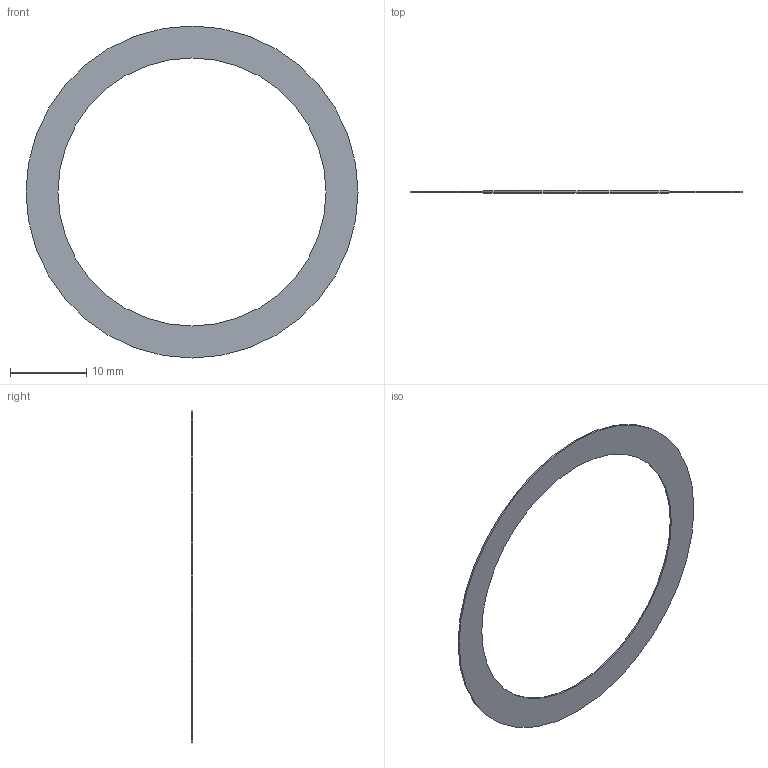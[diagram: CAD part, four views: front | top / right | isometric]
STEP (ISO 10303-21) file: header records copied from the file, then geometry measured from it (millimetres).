
FILE_DESCRIPTION(('Open CASCADE Model'),'2;1');
FILE_NAME('Open CASCADE Shape Model','2026-10-01T12:35:22',('Author'),( 'Open CASCADE'),'Open CASCADE STEP processor 7.8','Open CASCADE 7.8' ,'Unknown');
FILE_SCHEMA(('AUTOMOTIVE_DESIGN { 1 0 10303 214 1 1 1 1 }'));
Length unit declared in the file: millimetre
Products named in the file (2): H01_Bezel_adhesive; H01_Bezel_adhesive_solid
Assembly tree (1 placements, depth 2):
  H01_Bezel_adhesive
    H01_Bezel_adhesive_solid
Bounding box: 43.6 x 0.2 x 43.6 mm (x, y, z)
Volume: 104 mm3; surface area: 1089.3 mm2
Topology: 1 solids, 1 shells, 4 faces, 6 edges, 4 vertices
Faces by surface type: cylinder 2, plane 2
Full cylindrical faces by diameter (mm): 35.2 x1, 43.6 x1
Entity records: 213 total; most frequent: DIRECTION 34, CARTESIAN_POINT 28, ORIENTED_EDGE 12, PCURVE 12, DEFINITIONAL_REPRESENTATION 12, AXIS2_PLACEMENT_3D 10, LINE 10, VECTOR 10
